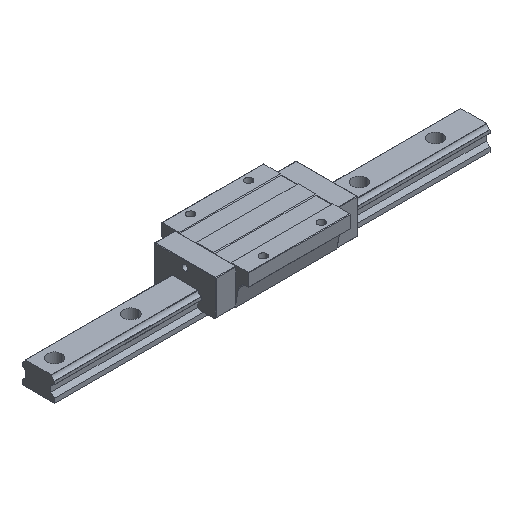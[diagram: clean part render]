
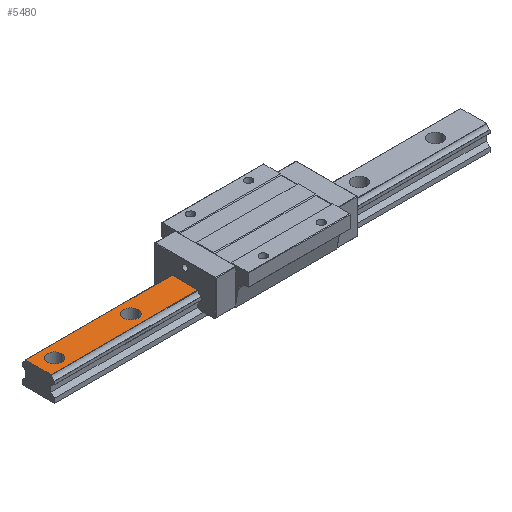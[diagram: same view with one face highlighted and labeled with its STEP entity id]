
A CAD part, isometric view. The second image highlights one B-rep face of the part: STEP entity #5480.
In plain terms, the highlighted planar face has unit normal (0, 0, 1).
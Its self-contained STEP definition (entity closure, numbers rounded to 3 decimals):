
#40 = DIRECTION ( 'NONE',  ( 0., 0., -1. ) ) ;
#44 = VERTEX_POINT ( 'NONE', #3588 ) ;
#324 = CARTESIAN_POINT ( 'NONE',  ( -267.5, 0., 32. ) ) ;
#369 = CARTESIAN_POINT ( 'NONE',  ( -162.5, 0., 32. ) ) ;
#405 = CARTESIAN_POINT ( 'NONE',  ( -172.5, 0., 32. ) ) ;
#485 = VERTEX_POINT ( 'NONE', #6053 ) ;
#612 = FACE_BOUND ( 'NONE', #5454, .T. ) ;
#614 = ORIENTED_EDGE ( 'NONE', *, *, #5104, .T. ) ;
#685 = VECTOR ( 'NONE', #1066, 1000. ) ;
#809 = ORIENTED_EDGE ( 'NONE', *, *, #2898, .T. ) ;
#823 = CARTESIAN_POINT ( 'NONE',  ( -172.5, 0., 32. ) ) ;
#843 = EDGE_LOOP ( 'NONE', ( #809, #2910 ) ) ;
#897 = VERTEX_POINT ( 'NONE', #4139 ) ;
#910 = CARTESIAN_POINT ( 'NONE',  ( -300., 0., 32. ) ) ;
#972 = EDGE_CURVE ( 'NONE', #897, #44, #2292, .T. ) ;
#1066 = DIRECTION ( 'NONE',  ( 1., 0., 0. ) ) ;
#1067 = VECTOR ( 'NONE', #2341, 1000. ) ;
#1095 = AXIS2_PLACEMENT_3D ( 'NONE', #823, #5288, #1306 ) ;
#1306 = DIRECTION ( 'NONE',  ( -1., 0., 0. ) ) ;
#1600 = DIRECTION ( 'NONE',  ( -1., 0., 0. ) ) ;
#1686 = CARTESIAN_POINT ( 'NONE',  ( -182.5, 0., 32. ) ) ;
#1810 = LINE ( 'NONE', #910, #5621 ) ;
#1945 = CIRCLE ( 'NONE', #3499, 10. ) ;
#1948 = DIRECTION ( 'NONE',  ( 0., -1., 0. ) ) ;
#1971 = EDGE_CURVE ( 'NONE', #44, #2293, #1810, .T. ) ;
#1988 = CARTESIAN_POINT ( 'NONE',  ( -277.5, 0., 32. ) ) ;
#2253 = CARTESIAN_POINT ( 'NONE',  ( -287.5, 0., 32. ) ) ;
#2282 = ORIENTED_EDGE ( 'NONE', *, *, #5435, .T. ) ;
#2292 = LINE ( 'NONE', #6241, #3122 ) ;
#2293 = VERTEX_POINT ( 'NONE', #5771 ) ;
#2341 = DIRECTION ( 'NONE',  ( 0., -1., 0. ) ) ;
#2348 = AXIS2_PLACEMENT_3D ( 'NONE', #5471, #40, #2501 ) ;
#2501 = DIRECTION ( 'NONE',  ( 0., -1., 0. ) ) ;
#2582 = DIRECTION ( 'NONE',  ( 0., 0., -1. ) ) ;
#2692 = EDGE_CURVE ( 'NONE', #2718, #2919, #2848, .T. ) ;
#2718 = VERTEX_POINT ( 'NONE', #1686 ) ;
#2811 = LINE ( 'NONE', #4786, #1067 ) ;
#2848 = CIRCLE ( 'NONE', #1095, 10. ) ;
#2898 = EDGE_CURVE ( 'NONE', #2919, #2718, #6051, .T. ) ;
#2910 = ORIENTED_EDGE ( 'NONE', *, *, #2692, .T. ) ;
#2919 = VERTEX_POINT ( 'NONE', #369 ) ;
#2962 = DIRECTION ( 'NONE',  ( -1., 0., 0. ) ) ;
#3068 = ORIENTED_EDGE ( 'NONE', *, *, #972, .T. ) ;
#3122 = VECTOR ( 'NONE', #3296, 1000. ) ;
#3139 = AXIS2_PLACEMENT_3D ( 'NONE', #4046, #2582, #1600 ) ;
#3216 = ORIENTED_EDGE ( 'NONE', *, *, #3322, .F. ) ;
#3296 = DIRECTION ( 'NONE',  ( -1., 0., 0. ) ) ;
#3322 = EDGE_CURVE ( 'NONE', #897, #485, #2811, .T. ) ;
#3450 = DIRECTION ( 'NONE',  ( 0., 0., -1. ) ) ;
#3499 = AXIS2_PLACEMENT_3D ( 'NONE', #1988, #4351, #4480 ) ;
#3505 = EDGE_LOOP ( 'NONE', ( #3216, #3068, #6268, #2282 ) ) ;
#3563 = CIRCLE ( 'NONE', #3139, 10. ) ;
#3565 = LINE ( 'NONE', #5048, #685 ) ;
#3588 = CARTESIAN_POINT ( 'NONE',  ( -300., 17.738, 32. ) ) ;
#4027 = FACE_OUTER_BOUND ( 'NONE', #3505, .T. ) ;
#4044 = ORIENTED_EDGE ( 'NONE', *, *, #4109, .T. ) ;
#4046 = CARTESIAN_POINT ( 'NONE',  ( -277.5, 0., 32. ) ) ;
#4094 = AXIS2_PLACEMENT_3D ( 'NONE', #405, #3450, #2962 ) ;
#4109 = EDGE_CURVE ( 'NONE', #5944, #6298, #3563, .T. ) ;
#4139 = CARTESIAN_POINT ( 'NONE',  ( -97.75, 17.738, 32. ) ) ;
#4351 = DIRECTION ( 'NONE',  ( 0., 0., -1. ) ) ;
#4480 = DIRECTION ( 'NONE',  ( -1., 0., 0. ) ) ;
#4560 = PLANE ( 'NONE',  #2348 ) ;
#4786 = CARTESIAN_POINT ( 'NONE',  ( -97.75, -17.738, 32. ) ) ;
#5020 = FACE_BOUND ( 'NONE', #843, .T. ) ;
#5048 = CARTESIAN_POINT ( 'NONE',  ( 300., -17.738, 32. ) ) ;
#5104 = EDGE_CURVE ( 'NONE', #6298, #5944, #1945, .T. ) ;
#5288 = DIRECTION ( 'NONE',  ( 0., 0., -1. ) ) ;
#5435 = EDGE_CURVE ( 'NONE', #2293, #485, #3565, .T. ) ;
#5454 = EDGE_LOOP ( 'NONE', ( #614, #4044 ) ) ;
#5471 = CARTESIAN_POINT ( 'NONE',  ( 300., 0., 32. ) ) ;
#5480 = ADVANCED_FACE ( 'NONE', ( #4027, #612, #5020 ), #4560, .F. ) ;
#5621 = VECTOR ( 'NONE', #1948, 1000. ) ;
#5771 = CARTESIAN_POINT ( 'NONE',  ( -300., -17.738, 32. ) ) ;
#5944 = VERTEX_POINT ( 'NONE', #2253 ) ;
#6051 = CIRCLE ( 'NONE', #4094, 10. ) ;
#6053 = CARTESIAN_POINT ( 'NONE',  ( -97.75, -17.738, 32. ) ) ;
#6241 = CARTESIAN_POINT ( 'NONE',  ( 300., 17.738, 32. ) ) ;
#6268 = ORIENTED_EDGE ( 'NONE', *, *, #1971, .T. ) ;
#6298 = VERTEX_POINT ( 'NONE', #324 ) ;
